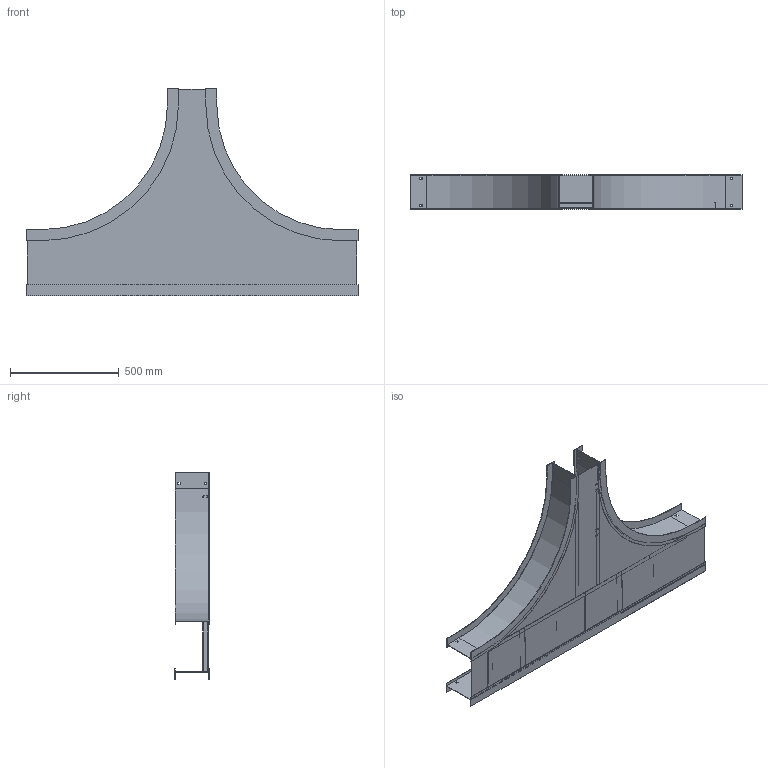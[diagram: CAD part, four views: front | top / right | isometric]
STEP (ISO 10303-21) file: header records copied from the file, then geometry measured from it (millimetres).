
FILE_DESCRIPTION((''),'2;1');
FILE_NAME('AHF60906SRT24_ASM','2010-02-09T',('erouzier'),(''),'PRO/ENGINEER BY PARAMETRIC TECHNOLOGY CORPORATION, 2008510','PRO/ENGINEER BY PARAMETRIC TECHNOLOGY CORPORATION, 2008510','');
FILE_SCHEMA(('CONFIG_CONTROL_DESIGN'));
Length unit declared in the file: inch
Products named in the file (16): CDS001812-6-90-24-I; CDS013847-6-60; CDS000495_GEN_AF9; CDS002159L9_AF8; CDS002159L9_AF9; CDS002159L9_AF10; CDS002159L9_AF11; CDS002159L9_AF12; CDS002159L9_AF13; CDS002159L9_AF14; CDS000495_GEN_AF10; CDS000495_GEN_AF11; CDS002159L6_AF2; CDS002159L6_AF3; CDS014192-9-24-6; AHF60906SRT24_ASM
Assembly tree (16 placements, depth 2):
  AHF60906SRT24_ASM
    CDS001812-6-90-24-I  x2
    CDS013847-6-60
    CDS000495_GEN_AF9
    CDS002159L9_AF8
    CDS002159L9_AF9
    CDS002159L9_AF10
    CDS002159L9_AF11
    CDS002159L9_AF12
    CDS002159L9_AF13
    CDS002159L9_AF14
    CDS000495_GEN_AF10
    CDS000495_GEN_AF11
    CDS002159L6_AF2
    CDS002159L6_AF3
    CDS014192-9-24-6
Bounding box: 1529.08 x 160.02 x 954.15 mm (x, y, z)
Volume: 3688948.1 mm3; surface area: 3917500.6 mm2
Topology: 16 solids, 16 shells, 426 faces, 1182 edges, 788 vertices
Faces by surface type: plane 313, cylinder 113
Entity records: 12626 total; most frequent: CARTESIAN_POINT 2186, ORIENTED_EDGE 2124, DIRECTION 2108, EDGE_CURVE 1062, VECTOR 848, LINE 848, VERTEX_POINT 708, AXIS2_PLACEMENT_3D 630
